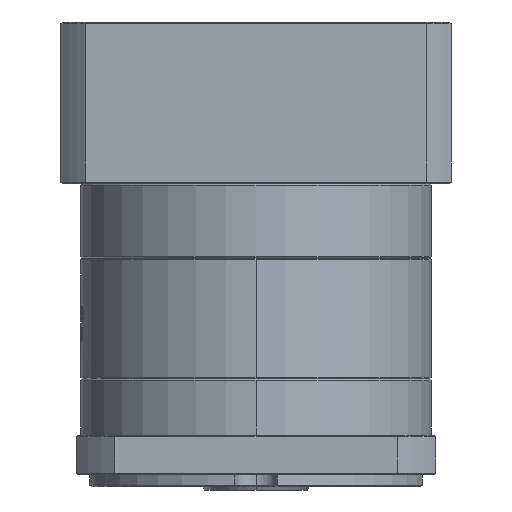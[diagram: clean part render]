
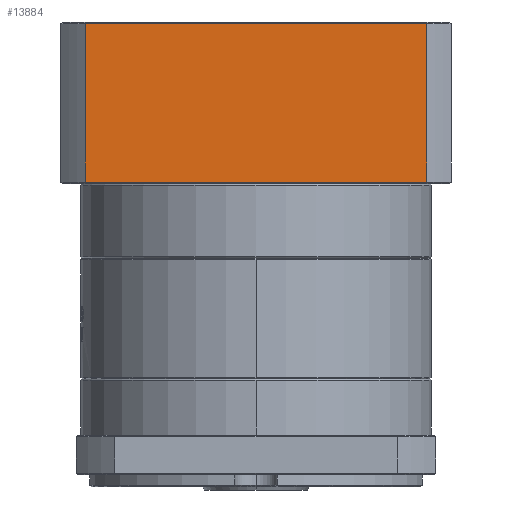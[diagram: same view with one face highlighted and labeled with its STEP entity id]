
A CAD part, left-side view. The second image highlights one B-rep face of the part: STEP entity #13884.
In plain terms, the highlighted planar face has unit normal (-1, 0, 0).
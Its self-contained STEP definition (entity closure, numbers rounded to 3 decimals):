
#5432 = CARTESIAN_POINT ( 'NONE',  ( -11.148, 137.555, 42.78 ) ) ;
#5580 = CARTESIAN_POINT ( 'NONE',  ( -11.148, 25.68, 42.28 ) ) ;
#7312 = ORIENTED_EDGE ( 'NONE', *, *, #51172, .F. ) ;
#9354 = CARTESIAN_POINT ( 'NONE',  ( -11.148, 137.555, 42.28 ) ) ;
#9743 = DIRECTION ( 'NONE',  ( 0., 0., -1. ) ) ;
#13884 = ADVANCED_FACE ( 'NONE', ( #64239 ), #96293, .F. ) ;
#17230 = LINE ( 'NONE', #48581, #96336 ) ;
#17971 = LINE ( 'NONE', #89714, #119938 ) ;
#22675 = ORIENTED_EDGE ( 'NONE', *, *, #39053, .T. ) ;
#31282 = ORIENTED_EDGE ( 'NONE', *, *, #91611, .F. ) ;
#36580 = LINE ( 'NONE', #65188, #117304 ) ;
#39053 = EDGE_CURVE ( 'NONE', #89787, #67651, #36580, .T. ) ;
#41170 = DIRECTION ( 'NONE',  ( 0., -1., 0. ) ) ;
#48581 = CARTESIAN_POINT ( 'NONE',  ( -11.148, 25.68, -253.041 ) ) ;
#51172 = EDGE_CURVE ( 'NONE', #89787, #61623, #98402, .T. ) ;
#57349 = CARTESIAN_POINT ( 'NONE',  ( -11.148, 25.68, -9.72 ) ) ;
#61623 = VERTEX_POINT ( 'NONE', #9354 ) ;
#64239 = FACE_OUTER_BOUND ( 'NONE', #106174, .T. ) ;
#65188 = CARTESIAN_POINT ( 'NONE',  ( -11.148, 145.618, -9.72 ) ) ;
#66401 = EDGE_CURVE ( 'NONE', #99620, #67651, #17230, .T. ) ;
#66449 = DIRECTION ( 'NONE',  ( 0., -1., 0. ) ) ;
#67651 = VERTEX_POINT ( 'NONE', #57349 ) ;
#72496 = VECTOR ( 'NONE', #121664, 1000. ) ;
#85274 = CARTESIAN_POINT ( 'NONE',  ( -11.148, 145.618, 42.78 ) ) ;
#89714 = CARTESIAN_POINT ( 'NONE',  ( -11.148, 145.618, 42.28 ) ) ;
#89787 = VERTEX_POINT ( 'NONE', #121300 ) ;
#91611 = EDGE_CURVE ( 'NONE', #61623, #99620, #17971, .T. ) ;
#94614 = DIRECTION ( 'NONE',  ( 0., 1., 0. ) ) ;
#96293 = PLANE ( 'NONE',  #106720 ) ;
#96336 = VECTOR ( 'NONE', #9743, 1000. ) ;
#98402 = LINE ( 'NONE', #5432, #72496 ) ;
#99620 = VERTEX_POINT ( 'NONE', #5580 ) ;
#104434 = DIRECTION ( 'NONE',  ( 1., 0., 0. ) ) ;
#106174 = EDGE_LOOP ( 'NONE', ( #22675, #117537, #31282, #7312 ) ) ;
#106720 = AXIS2_PLACEMENT_3D ( 'NONE', #85274, #104434, #94614 ) ;
#117304 = VECTOR ( 'NONE', #66449, 1000. ) ;
#117537 = ORIENTED_EDGE ( 'NONE', *, *, #66401, .F. ) ;
#119938 = VECTOR ( 'NONE', #41170, 1000. ) ;
#121300 = CARTESIAN_POINT ( 'NONE',  ( -11.148, 137.555, -9.72 ) ) ;
#121664 = DIRECTION ( 'NONE',  ( 0., 0., 1. ) ) ;
